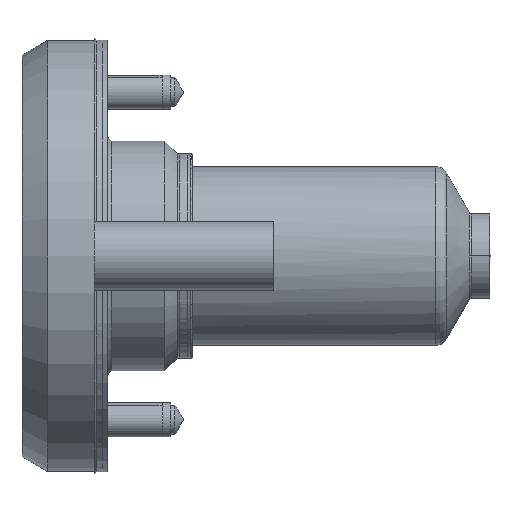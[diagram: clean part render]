
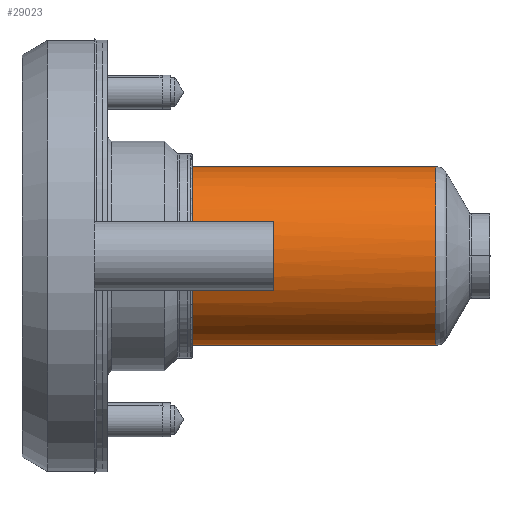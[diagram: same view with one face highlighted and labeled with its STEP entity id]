
A CAD part, left-side view. The second image highlights one B-rep face of the part: STEP entity #29023.
In plain terms, the highlighted cylindrical face has radius 21 mm (diameter 42 mm), a partial arc.
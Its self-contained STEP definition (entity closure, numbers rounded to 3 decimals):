
#610 = VECTOR ( 'NONE', #3205, 1000. ) ;
#765 = CARTESIAN_POINT ( 'NONE',  ( -19.416, -15., 8. ) ) ;
#784 = DIRECTION ( 'NONE',  ( 0., 0., -1. ) ) ;
#999 = EDGE_CURVE ( 'NONE', #18542, #25137, #14810, .T. ) ;
#1083 = DIRECTION ( 'NONE',  ( 0., -1., 0. ) ) ;
#2079 = CARTESIAN_POINT ( 'NONE',  ( 0., -72.228, 21. ) ) ;
#3091 = DIRECTION ( 'NONE',  ( 0., 0., -1. ) ) ;
#3205 = DIRECTION ( 'NONE',  ( 0., -1., 0. ) ) ;
#3334 = DIRECTION ( 'NONE',  ( 0., -1., 0. ) ) ;
#3742 = CARTESIAN_POINT ( 'NONE',  ( 0., -93.07, -21. ) ) ;
#3789 = ORIENTED_EDGE ( 'NONE', *, *, #999, .T. ) ;
#5124 = EDGE_CURVE ( 'NONE', #5848, #26122, #11882, .T. ) ;
#5218 = AXIS2_PLACEMENT_3D ( 'NONE', #24363, #17535, #26743 ) ;
#5335 = DIRECTION ( 'NONE',  ( 0., -1., 0. ) ) ;
#5848 = VERTEX_POINT ( 'NONE', #2079 ) ;
#5901 = EDGE_CURVE ( 'NONE', #20554, #5848, #22173, .T. ) ;
#6717 = VECTOR ( 'NONE', #27084, 1000. ) ;
#7395 = EDGE_CURVE ( 'NONE', #16551, #25137, #18175, .T. ) ;
#8341 = EDGE_CURVE ( 'NONE', #9383, #16551, #17050, .T. ) ;
#8830 = ORIENTED_EDGE ( 'NONE', *, *, #11922, .T. ) ;
#9032 = ORIENTED_EDGE ( 'NONE', *, *, #5124, .F. ) ;
#9383 = VERTEX_POINT ( 'NONE', #24626 ) ;
#9621 = CARTESIAN_POINT ( 'NONE',  ( 0., -34., 0. ) ) ;
#10389 = CYLINDRICAL_SURFACE ( 'NONE', #11188, 21. ) ;
#11046 = DIRECTION ( 'NONE',  ( 0., -1., 0. ) ) ;
#11188 = AXIS2_PLACEMENT_3D ( 'NONE', #25718, #5335, #3091 ) ;
#11882 = CIRCLE ( 'NONE', #5218, 21. ) ;
#11922 = EDGE_CURVE ( 'NONE', #20554, #18542, #27313, .T. ) ;
#12440 = DIRECTION ( 'NONE',  ( 0., 0., 1. ) ) ;
#12569 = DIRECTION ( 'NONE',  ( 0., -1., 0. ) ) ;
#12861 = CARTESIAN_POINT ( 'NONE',  ( 0., -15., -21. ) ) ;
#12951 = AXIS2_PLACEMENT_3D ( 'NONE', #9621, #16898, #12440 ) ;
#13220 = VERTEX_POINT ( 'NONE', #12861 ) ;
#13559 = ORIENTED_EDGE ( 'NONE', *, *, #5901, .F. ) ;
#14234 = EDGE_LOOP ( 'NONE', ( #13559, #8830, #3789, #23096, #18762, #29314, #29267, #9032 ) ) ;
#14810 = LINE ( 'NONE', #14960, #28595 ) ;
#14945 = CARTESIAN_POINT ( 'NONE',  ( 0., -15., 0. ) ) ;
#14960 = CARTESIAN_POINT ( 'NONE',  ( -19.416, -93.07, 8. ) ) ;
#15220 = LINE ( 'NONE', #3742, #22359 ) ;
#15382 = DIRECTION ( 'NONE',  ( 0., 0., -1. ) ) ;
#16551 = VERTEX_POINT ( 'NONE', #21069 ) ;
#16640 = CARTESIAN_POINT ( 'NONE',  ( 0., -72.228, -21. ) ) ;
#16898 = DIRECTION ( 'NONE',  ( 0., 1., 0. ) ) ;
#17050 = LINE ( 'NONE', #28203, #610 ) ;
#17535 = DIRECTION ( 'NONE',  ( 0., -1., 0. ) ) ;
#17725 = CARTESIAN_POINT ( 'NONE',  ( 0., -93.07, 21. ) ) ;
#17824 = EDGE_CURVE ( 'NONE', #9383, #13220, #28846, .T. ) ;
#18175 = CIRCLE ( 'NONE', #12951, 21. ) ;
#18542 = VERTEX_POINT ( 'NONE', #765 ) ;
#18762 = ORIENTED_EDGE ( 'NONE', *, *, #8341, .F. ) ;
#20554 = VERTEX_POINT ( 'NONE', #28343 ) ;
#21020 = CARTESIAN_POINT ( 'NONE',  ( -19.416, -34., 8. ) ) ;
#21069 = CARTESIAN_POINT ( 'NONE',  ( -19.416, -34., -8. ) ) ;
#21180 = CARTESIAN_POINT ( 'NONE',  ( 0., -15., 0. ) ) ;
#22173 = LINE ( 'NONE', #17725, #6717 ) ;
#22359 = VECTOR ( 'NONE', #11046, 1000. ) ;
#23096 = ORIENTED_EDGE ( 'NONE', *, *, #7395, .F. ) ;
#24363 = CARTESIAN_POINT ( 'NONE',  ( 0., -72.228, 0. ) ) ;
#24626 = CARTESIAN_POINT ( 'NONE',  ( -19.416, -15., -8. ) ) ;
#25137 = VERTEX_POINT ( 'NONE', #21020 ) ;
#25718 = CARTESIAN_POINT ( 'NONE',  ( 0., -93.07, 0. ) ) ;
#26122 = VERTEX_POINT ( 'NONE', #16640 ) ;
#26473 = AXIS2_PLACEMENT_3D ( 'NONE', #14945, #12569, #15382 ) ;
#26689 = EDGE_CURVE ( 'NONE', #13220, #26122, #15220, .T. ) ;
#26743 = DIRECTION ( 'NONE',  ( 0., 0., -1. ) ) ;
#27084 = DIRECTION ( 'NONE',  ( 0., -1., 0. ) ) ;
#27313 = CIRCLE ( 'NONE', #29154, 21. ) ;
#28203 = CARTESIAN_POINT ( 'NONE',  ( -19.416, -93.07, -8. ) ) ;
#28343 = CARTESIAN_POINT ( 'NONE',  ( 0., -15., 21. ) ) ;
#28389 = FACE_OUTER_BOUND ( 'NONE', #14234, .T. ) ;
#28595 = VECTOR ( 'NONE', #3334, 1000. ) ;
#28846 = CIRCLE ( 'NONE', #26473, 21. ) ;
#29023 = ADVANCED_FACE ( 'NONE', ( #28389 ), #10389, .T. ) ;
#29154 = AXIS2_PLACEMENT_3D ( 'NONE', #21180, #1083, #784 ) ;
#29267 = ORIENTED_EDGE ( 'NONE', *, *, #26689, .T. ) ;
#29314 = ORIENTED_EDGE ( 'NONE', *, *, #17824, .T. ) ;
